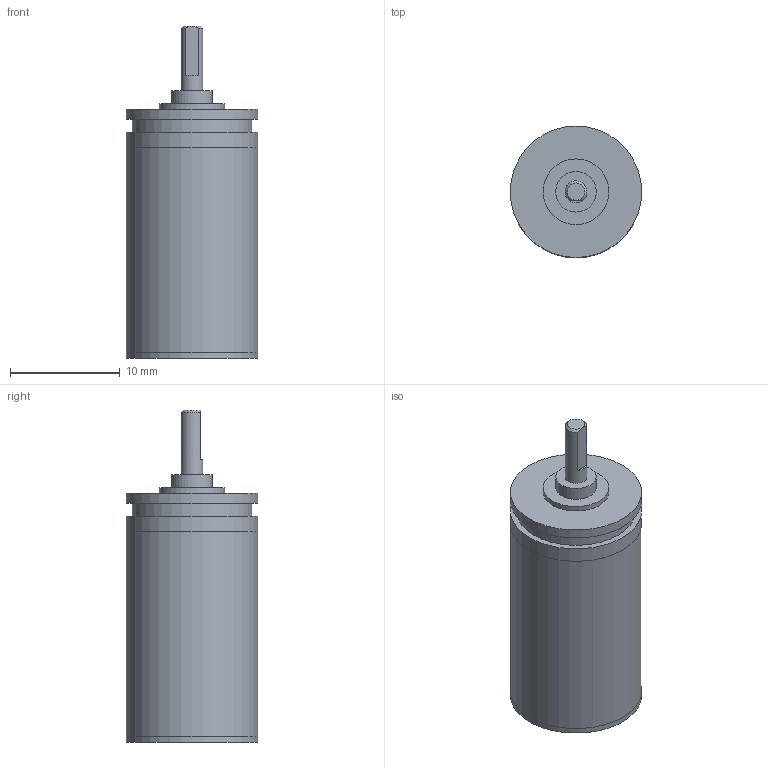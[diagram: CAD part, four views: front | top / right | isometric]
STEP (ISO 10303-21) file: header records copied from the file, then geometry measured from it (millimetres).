
FILE_DESCRIPTION(/* description */ (''),/* implementation_level */ '2;1');
FILE_NAME(/* name */ '12-3K_6.stp',/* time_stamp */ '2016-08-24T10:21:02+02:00',/* author */ ('DR. FRITZ FAULHABER GmbH & Co. KG'),/* organization */ ('DR. FRITZ FAULHABER GmbH & Co. KG'),/* preprocessor_version */ 'ST-DEVELOPER v16',/* originating_system */ 'SIEMENS PLM Software NX 10.0',/* authorisation */ '');
FILE_SCHEMA (('AUTOMOTIVE_DESIGN { 1 0 10303 214 3 1 1 1 }'));
Length unit declared in the file: millimetre
Products named in the file (1): H00000582_A
Bounding box: 12 x 12 x 30.3 mm (x, y, z)
Volume: 2516.7 mm3; surface area: 1244.1 mm2
Topology: 1 solids, 1 shells, 32 faces, 52 edges, 34 vertices
Faces by surface type: plane 16, cylinder 14, cone 2
Full cylindrical faces by diameter (mm): 2 x1, 2.48 x1, 2.6 x1, 3.7 x1, 5 x1, 6 x2, 10.88 x1, 11.99 x2, 12 x4
Entity records: 692 total; most frequent: DIRECTION 129, CARTESIAN_POINT 115, ORIENTED_EDGE 70, AXIS2_PLACEMENT_3D 63, EDGE_LOOP 59, FACE_BOUND 54, EDGE_CURVE 35, ADVANCED_FACE 32
